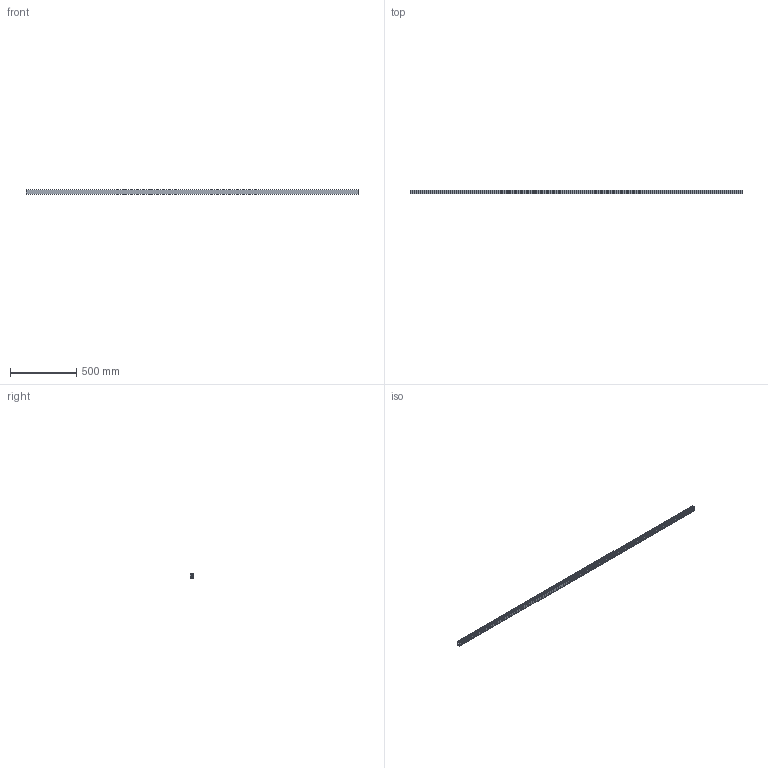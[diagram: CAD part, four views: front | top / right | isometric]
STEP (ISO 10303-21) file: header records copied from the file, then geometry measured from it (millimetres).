
FILE_DESCRIPTION(('STEP AP242'),'1');
FILE_NAME('OPO_56.047.11_volu_3d.stp','2026-01-30T20:45:11',(' '),(' '),'Spatial InterOp 3D',' ',' ');
FILE_SCHEMA(('AP242_MANAGED_MODEL_BASED_3D_ENGINEERING_MIM_LF {1 0 10303 442 1 1 4}'));
Length unit declared in the file: millimetre
Products named in the file (1): 1
Bounding box: 2500 x 24 x 35 mm (x, y, z)
Volume: 939375 mm3; surface area: 743251.5 mm2
Topology: 2 solids, 2 shells, 90 faces, 244 edges, 162 vertices
Faces by surface type: plane 70, cylinder 20
Entity records: 3552 total; most frequent: CARTESIAN_POINT 498, ORIENTED_EDGE 488, DIRECTION 468, EDGE_CURVE 244, LINE 204, VECTOR 204, VERTEX_POINT 162, AXIS2_PLACEMENT_3D 132
